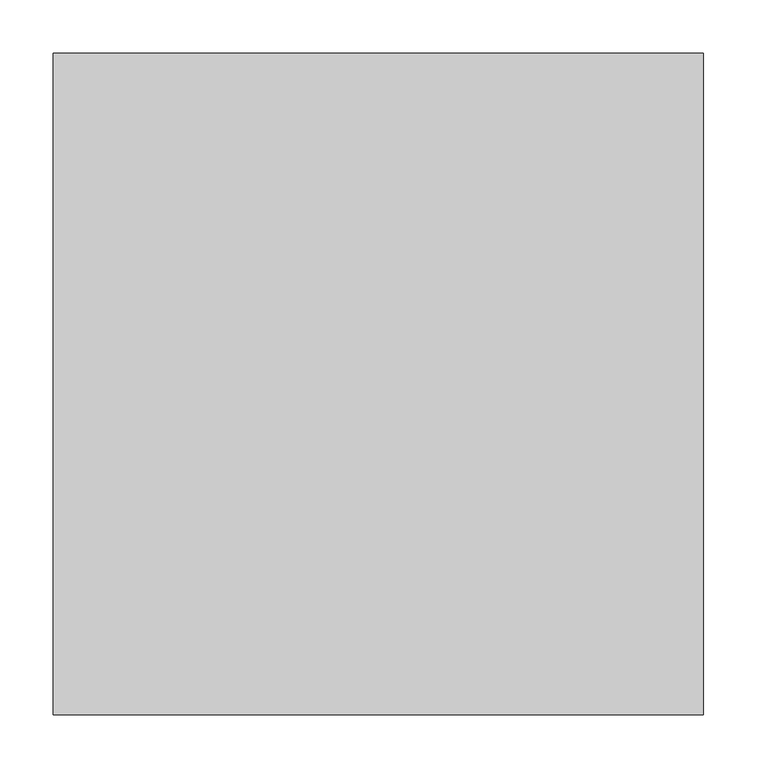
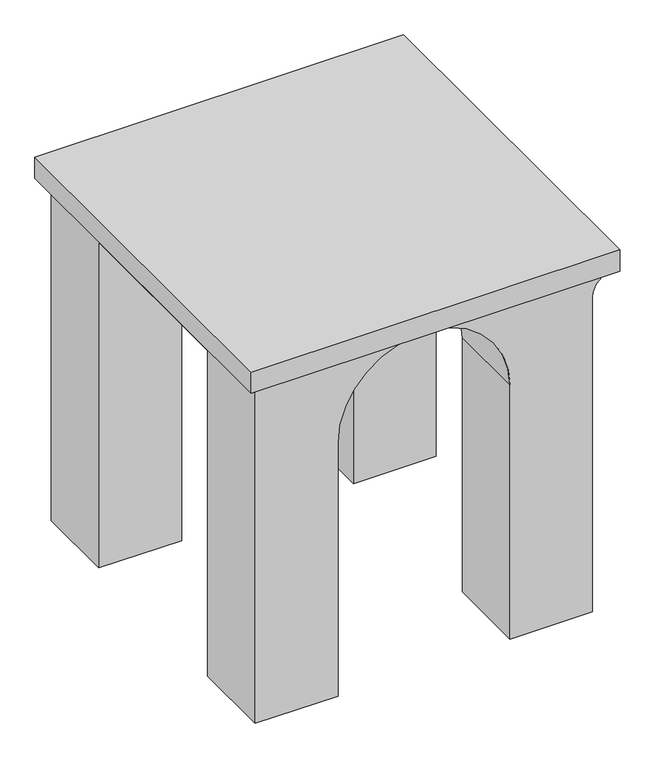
"""IFC4 building model written with IfcOpenShell, lengths in millimetres: valve geometry, Pipelife - Stormbox II - Skrzynka rozsączająca przecięta w połowie : Skrzynka rozsączająca."""

from ifc_helpers import new_model, si_unit, frame, origin, place, context, project, spatial, polyline, circle_curve, outline, extrude, source, transform, mapped, element, save
from ifc_brep_helpers import plane_surface, revolved_surface, advanced_brep


def valve_e3340e43(model_context):
    return source(origin(), model_context, "Body", "SolidModel", [
        extrude(outline(polyline([(0.0, 310.5), (0.0, -310.5), (-611.0, -310.5), (-611.0, 310.5), (0.0, 310.5)])), frame((0.0, 0.0, 595.0), z_axis=(0.0, 0.0, 1.0), x_axis=(1.0, 0.0, 0.0)), (0.0, 0.0, 1.0), 37.0),
        advanced_brep(
        [(-457.0, -292.5, 0.0), (-594.0, -292.5, 0.0), (-594.0, -156.5, 0.0), (-457.0, -156.5, 0.0), (-35.0, -292.5, 0.0), (-172.0, -292.5, 0.0), (-172.0, -156.5, 0.0), (-35.0, -156.5, 0.0), (-594.0, 292.5, 0.0), (-457.0, 292.5, 0.0), (-457.0, 156.5, 0.0), (-594.0, 156.5, 0.0), (-172.0, 292.5, 0.0), (-35.0, 292.5, 0.0), (-35.0, 156.5, 0.0), (-172.0, 156.5, 0.0), (0.0, 292.5, 595.0), (-594.0, 292.5, 595.0), (-594.0, -292.5, 595.0), (0.0, -292.5, 595.0), (0.0, -292.5, 586.0), (0.0, 292.5, 586.0), (-457.0, -292.5, 444.5), (-172.0, -292.5, 444.5), (-35.0, -292.5, 551.0), (-594.0, 156.5, 570.0), (-594.0, -156.5, 570.0), (-35.0, 292.5, 551.0), (-172.0, 292.5, 444.5), (-457.0, 292.5, 444.5), (-457.0, -156.5, 444.5), (-457.0, 156.5, 444.5), (-172.0, -156.5, 444.5), (-172.0, 156.5, 444.5), (-381.9981481, -156.5, 570.0), (-381.9981481, 156.5, 570.0), (-247.0018519, 156.5, 570.0), (-247.0018519, -156.5, 570.0), (-35.0, -156.5, 551.0), (-35.0, 156.5, 551.0), (-29.3938769, -156.5, 570.0), (-29.3938769, 156.5, 570.0)],
        [
            (0, 1),
            (1, 2),
            (2, 3),
            (3, 0),
            (4, 5),
            (5, 6),
            (6, 7),
            (7, 4),
            (8, 9),
            (9, 10),
            (10, 11),
            (11, 8),
            (12, 13),
            (13, 14),
            (14, 15),
            (15, 12),
            (16, 17),
            (17, 18),
            (18, 19),
            (19, 16),
            (19, 20),
            (20, 21),
            (21, 16),
            (18, 1),
            (0, 22),
            (22, 23, circle_curve(frame((-314.5, -292.5, 444.5), z_axis=(0.0, 1.0, 0.0), x_axis=(1.0, 0.0, 0.0)), 142.5)),
            (23, 5),
            (4, 24),
            (24, 20, circle_curve(frame((0.0, -292.5, 551.0), z_axis=(0.0, 1.0, 0.0), x_axis=(1.0, 0.0, 0.0)), 35.0)),
            (17, 8),
            (11, 25),
            (25, 26),
            (26, 2),
            (21, 27, circle_curve(frame((0.0, 292.5, 551.0), z_axis=(0.0, -1.0, 0.0), x_axis=(1.0, 0.0, 0.0)), 35.0)),
            (27, 13),
            (12, 28),
            (28, 29, circle_curve(frame((-314.5, 292.5, 444.5), z_axis=(0.0, -1.0, 0.0), x_axis=(1.0, 0.0, 0.0)), 142.5)),
            (29, 9),
            (3, 30),
            (30, 22),
            (29, 31),
            (31, 10),
            (23, 32),
            (32, 6),
            (15, 33),
            (33, 28),
            (30, 34, circle_curve(frame((-314.5, -156.5, 444.5), z_axis=(0.0, 1.0, 0.0), x_axis=(1.0, 0.0, 0.0)), 142.5)),
            (34, 35),
            (35, 31, circle_curve(frame((-314.5, 156.5, 444.5), z_axis=(0.0, -1.0, 0.0), x_axis=(1.0, 0.0, 0.0)), 142.5)),
            (33, 36, circle_curve(frame((-314.5, 156.5, 444.5), z_axis=(0.0, -1.0, 0.0), x_axis=(1.0, 0.0, 0.0)), 142.5)),
            (36, 37),
            (37, 32, circle_curve(frame((-314.5, -156.5, 444.5), z_axis=(0.0, 1.0, 0.0), x_axis=(1.0, 0.0, 0.0)), 142.5)),
            (7, 38),
            (38, 24),
            (27, 39),
            (39, 14),
            (38, 40, circle_curve(frame((0.0, -156.5, 551.0), z_axis=(0.0, 1.0, 0.0), x_axis=(1.0, 0.0, 0.0)), 35.0)),
            (40, 41),
            (41, 39, circle_curve(frame((0.0, 156.5, 551.0), z_axis=(0.0, -1.0, 0.0), x_axis=(1.0, 0.0, 0.0)), 35.0)),
            (34, 26),
            (25, 35),
            (40, 37),
            (36, 41),
        ],
        [
            plane_surface(frame((0.0, 0.0, 0.0), z_axis=(0.0, 0.0, -1.0), x_axis=(0.0, -1.0, 0.0))),
            plane_surface(frame((0.0, 0.0, 595.0), z_axis=(0.0, 0.0, 1.0), x_axis=(0.0, -1.0, 0.0))),
            plane_surface(frame((0.0, 292.5, 0.0), z_axis=(1.0, 0.0, 0.0), x_axis=(0.0, 0.0, 1.0))),
            plane_surface(frame((0.0, -292.5, 0.0), z_axis=(0.0, -1.0, 0.0), x_axis=(0.0, 0.0, 1.0))),
            plane_surface(frame((-594.0, -292.5, 0.0), z_axis=(-1.0, 0.0, 0.0), x_axis=(0.0, 0.0, 1.0))),
            plane_surface(frame((-594.0, 292.5, 0.0), z_axis=(0.0, 1.0, 0.0), x_axis=(0.0, 0.0, 1.0))),
            plane_surface(frame((-457.0, -310.5, 444.5), z_axis=(1.0, 0.0, 0.0), x_axis=(0.0, 1.0, 0.0))),
            plane_surface(frame((-172.0, -310.5, 0.0), z_axis=(-1.0, 0.0, 0.0), x_axis=(0.0, 1.0, 0.0))),
            revolved_surface(polyline([(-172.0, -292.5, 444.5), (-172.0, 292.5, 444.5)]), (-314.5, 310.5, 444.5), (0.0, -1.0, 0.0)),
            plane_surface(frame((-35.0, -310.5, 551.0), z_axis=(1.0, 0.0, 0.0), x_axis=(0.0, 1.0, 0.0))),
            revolved_surface(polyline([(35.0, -292.5, 551.0), (35.0, 292.5, 551.0)]), (0.0, 0.0, 551.0), (0.0, -1.0, 0.0)),
            plane_surface(frame((-611.0, -156.5, 570.0), z_axis=(0.0, 0.0, -1.0), x_axis=(1.0, 0.0, 0.0))),
            plane_surface(frame((-611.0, 156.5, 570.0), z_axis=(0.0, -1.0, 0.0), x_axis=(1.0, 0.0, 0.0))),
            plane_surface(frame((-611.0, -156.5, 0.0), z_axis=(0.0, 1.0, 0.0), x_axis=(1.0, 0.0, 0.0))),
        ],
        [
            (0, [[1, 2, 3, 4]]),
            (0, [[5, 6, 7, 8]]),
            (0, [[9, 10, 11, 12]]),
            (0, [[13, 14, 15, 16]]),
            (1, [[17, 18, 19, 20]]),
            (2, [[-20, 21, 22, 23]]),
            (3, [[-19, 24, -1, 25, 26, 27, -5, 28, 29, -21]]),
            (4, [[-18, 30, -12, 31, 32, 33, -2, -24]]),
            (5, [[-17, -23, 34, 35, -13, 36, 37, 38, -9, -30]]),
            (6, [[-25, -4, 39, 40]]),
            (6, [[-38, 41, 42, -10]]),
            (7, [[-27, 43, 44, -6]]),
            (7, [[-36, -16, 45, 46]]),
            (8, [[-26, -40, 47, 48, 49, -41, -37, -46, 50, 51, 52, -43]]),
            (9, [[-28, -8, 53, 54]]),
            (9, [[-35, 55, 56, -14]]),
            (10, [[-22, -29, -54, 57, 58, 59, -55, -34]]),
            (11, [[60, -32, 61, -48]]),
            (11, [[62, -51, 63, -58]]),
            (12, [[-61, -31, -11, -42, -49]]),
            (12, [[-63, -50, -45, -15, -56, -59]]),
            (13, [[-60, -47, -39, -3, -33]]),
            (13, [[-62, -57, -53, -7, -44, -52]]),
        ],
    ),
    ])


if __name__ == "__main__":
    model = new_model("IFC4")
    model_context = context("Model", 3, world=origin())
    ifc_project = project(units=[si_unit("LENGTHUNIT", "METRE", prefix="MILLI")], contexts=[model_context])
    site = spatial("IfcSite", under=ifc_project)
    building = spatial("IfcBuilding", under=site)
    placement = place(None, origin())
    valve_shape = valve_e3340e43(model_context)
    element("IfcValve", 1, ObjectType="Pipelife - Stormbox II - Skrzynka rozsączająca przecięta w połowie : Skrzynka rozsączająca", at=placement, inside=building, context=model_context, shape_type="MappedRepresentation", body=[
        mapped(valve_shape, transform((0.0, 0.0, 0.0), x_axis=(1.0, 0.0, 0.0), y_axis=(0.0, 1.0, 0.0), z_axis=(0.0, 0.0, 1.0))),
    ])
    save(model, "model.ifc")
